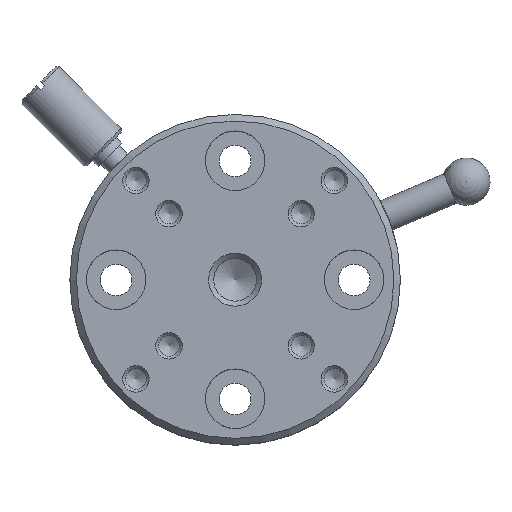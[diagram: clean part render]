
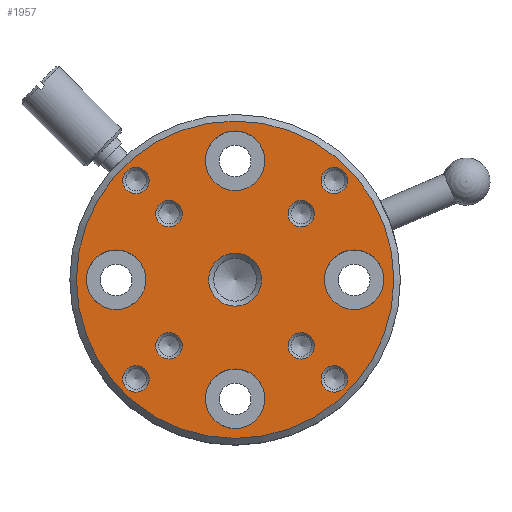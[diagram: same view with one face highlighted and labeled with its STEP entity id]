
A CAD part, top view. The second image highlights one B-rep face of the part: STEP entity #1957.
In plain terms, the highlighted planar face has unit normal (0, 0, 1).
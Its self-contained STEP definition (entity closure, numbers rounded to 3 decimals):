
#853=CARTESIAN_POINT('',(0.0,12.,29.));
#854=VERTEX_POINT('',#853);
#855=CARTESIAN_POINT('',(0.,0.,29.0));
#856=DIRECTION('',(0.,0.,-1.0));
#857=DIRECTION('',(0.,1.0,0.));
#858=AXIS2_PLACEMENT_3D('',#855,#856,#857);
#859=CIRCLE('',#858,12.0);
#860=EDGE_CURVE('',#854,#854,#859,.T.);
#917=CARTESIAN_POINT('',(11.25,0.,29.0));
#918=VERTEX_POINT('',#917);
#919=CARTESIAN_POINT('',(9.,0.,29.0));
#920=DIRECTION('',(0.0,0.0,1.0));
#921=DIRECTION('',(1.0,0.0,0.0));
#922=AXIS2_PLACEMENT_3D('',#919,#920,#921);
#923=CIRCLE('',#922,2.25);
#924=EDGE_CURVE('',#918,#918,#923,.T.);
#962=CARTESIAN_POINT('',(-5.0,6.,29.));
#963=VERTEX_POINT('',#962);
#964=CARTESIAN_POINT('',(-5.,5.,29.));
#965=DIRECTION('',(0.,0.,-1.0));
#966=DIRECTION('',(0.0,1.0,0.));
#967=AXIS2_PLACEMENT_3D('',#964,#965,#966);
#968=CIRCLE('',#967,1.0);
#969=EDGE_CURVE('',#963,#963,#968,.T.);
#1010=CARTESIAN_POINT('',(-5.0,-4.,29.0));
#1011=VERTEX_POINT('',#1010);
#1012=CARTESIAN_POINT('',(-5.,-5.,29.));
#1013=DIRECTION('',(0.,0.,-1.0));
#1014=DIRECTION('',(0.,1.0,0.));
#1015=AXIS2_PLACEMENT_3D('',#1012,#1013,#1014);
#1016=CIRCLE('',#1015,1.0);
#1017=EDGE_CURVE('',#1011,#1011,#1016,.T.);
#1058=CARTESIAN_POINT('',(7.5,8.5,29.));
#1059=VERTEX_POINT('',#1058);
#1060=CARTESIAN_POINT('',(7.5,7.5,29.));
#1061=DIRECTION('',(0.,0.,-1.0));
#1062=DIRECTION('',(0.,1.0,0.));
#1063=AXIS2_PLACEMENT_3D('',#1060,#1061,#1062);
#1064=CIRCLE('',#1063,1.);
#1065=EDGE_CURVE('',#1059,#1059,#1064,.T.);
#1106=CARTESIAN_POINT('',(-7.5,8.5,29.));
#1107=VERTEX_POINT('',#1106);
#1108=CARTESIAN_POINT('',(-7.5,7.5,29.));
#1109=DIRECTION('',(0.,0.,-1.0));
#1110=DIRECTION('',(0.,1.0,0.));
#1111=AXIS2_PLACEMENT_3D('',#1108,#1109,#1110);
#1112=CIRCLE('',#1111,1.);
#1113=EDGE_CURVE('',#1107,#1107,#1112,.T.);
#1154=CARTESIAN_POINT('',(-7.5,-6.5,29.0));
#1155=VERTEX_POINT('',#1154);
#1156=CARTESIAN_POINT('',(-7.5,-7.5,29.));
#1157=DIRECTION('',(0.,0.,-1.0));
#1158=DIRECTION('',(0.,1.0,0.));
#1159=AXIS2_PLACEMENT_3D('',#1156,#1157,#1158);
#1160=CIRCLE('',#1159,1.);
#1161=EDGE_CURVE('',#1155,#1155,#1160,.T.);
#1202=CARTESIAN_POINT('',(5.0,-4.,29.0));
#1203=VERTEX_POINT('',#1202);
#1204=CARTESIAN_POINT('',(5.,-5.,29.));
#1205=DIRECTION('',(0.,0.,-1.0));
#1206=DIRECTION('',(0.,1.0,0.));
#1207=AXIS2_PLACEMENT_3D('',#1204,#1205,#1206);
#1208=CIRCLE('',#1207,1.0);
#1209=EDGE_CURVE('',#1203,#1203,#1208,.T.);
#1250=CARTESIAN_POINT('',(5.0,6.,29.));
#1251=VERTEX_POINT('',#1250);
#1252=CARTESIAN_POINT('',(5.,5.,29.));
#1253=DIRECTION('',(0.,0.,-1.0));
#1254=DIRECTION('',(0.,1.0,0.));
#1255=AXIS2_PLACEMENT_3D('',#1252,#1253,#1254);
#1256=CIRCLE('',#1255,1.);
#1257=EDGE_CURVE('',#1251,#1251,#1256,.T.);
#1298=CARTESIAN_POINT('',(7.5,-6.5,29.0));
#1299=VERTEX_POINT('',#1298);
#1300=CARTESIAN_POINT('',(7.5,-7.5,29.));
#1301=DIRECTION('',(0.,0.,-1.0));
#1302=DIRECTION('',(0.,1.0,0.));
#1303=AXIS2_PLACEMENT_3D('',#1300,#1301,#1302);
#1304=CIRCLE('',#1303,1.);
#1305=EDGE_CURVE('',#1299,#1299,#1304,.T.);
#1346=CARTESIAN_POINT('',(0.0,2.,29.0));
#1347=VERTEX_POINT('',#1346);
#1348=CARTESIAN_POINT('',(0.,0.,29.0));
#1349=DIRECTION('',(0.,0.,-1.0));
#1350=DIRECTION('',(0.,1.0,0.));
#1351=AXIS2_PLACEMENT_3D('',#1348,#1349,#1350);
#1352=CIRCLE('',#1351,2.0);
#1353=EDGE_CURVE('',#1347,#1347,#1352,.T.);
#1498=CARTESIAN_POINT('',(2.25,-9.,29.0));
#1499=VERTEX_POINT('',#1498);
#1500=CARTESIAN_POINT('',(0.,-9.,29.0));
#1501=DIRECTION('',(0.0,0.0,1.0));
#1502=DIRECTION('',(1.0,0.0,0.0));
#1503=AXIS2_PLACEMENT_3D('',#1500,#1501,#1502);
#1504=CIRCLE('',#1503,2.25);
#1505=EDGE_CURVE('',#1499,#1499,#1504,.T.);
#1598=CARTESIAN_POINT('',(2.25,9.,29.));
#1599=VERTEX_POINT('',#1598);
#1600=CARTESIAN_POINT('',(0.,9.,29.));
#1601=DIRECTION('',(0.0,0.0,1.0));
#1602=DIRECTION('',(1.0,0.0,0.0));
#1603=AXIS2_PLACEMENT_3D('',#1600,#1601,#1602);
#1604=CIRCLE('',#1603,2.25);
#1605=EDGE_CURVE('',#1599,#1599,#1604,.T.);
#1662=CARTESIAN_POINT('',(-6.75,0.,29.0));
#1663=VERTEX_POINT('',#1662);
#1664=CARTESIAN_POINT('',(-9.,0.,29.0));
#1665=DIRECTION('',(0.0,0.0,1.0));
#1666=DIRECTION('',(1.0,0.0,0.0));
#1667=AXIS2_PLACEMENT_3D('',#1664,#1665,#1666);
#1668=CIRCLE('',#1667,2.25);
#1669=EDGE_CURVE('',#1663,#1663,#1668,.T.);
#1910=CARTESIAN_POINT('',(-13.2,-13.2,29.));
#1911=DIRECTION('',(0.0,0.0,-1.0));
#1912=DIRECTION('',(-1.0,0.0,0.0));
#1913=AXIS2_PLACEMENT_3D('',#1910,#1911,#1912);
#1914=PLANE('',#1913);
#1915=ORIENTED_EDGE('',*,*,#860,.F.);
#1916=EDGE_LOOP('',(#1915));
#1917=FACE_OUTER_BOUND('',#1916,.T.);
#1918=ORIENTED_EDGE('',*,*,#924,.F.);
#1919=EDGE_LOOP('',(#1918));
#1920=FACE_BOUND('',#1919,.T.);
#1921=ORIENTED_EDGE('',*,*,#1605,.F.);
#1922=EDGE_LOOP('',(#1921));
#1923=FACE_BOUND('',#1922,.T.);
#1924=ORIENTED_EDGE('',*,*,#1669,.F.);
#1925=EDGE_LOOP('',(#1924));
#1926=FACE_BOUND('',#1925,.T.);
#1927=ORIENTED_EDGE('',*,*,#1505,.F.);
#1928=EDGE_LOOP('',(#1927));
#1929=FACE_BOUND('',#1928,.T.);
#1930=ORIENTED_EDGE('',*,*,#969,.T.);
#1931=EDGE_LOOP('',(#1930));
#1932=FACE_BOUND('',#1931,.T.);
#1933=ORIENTED_EDGE('',*,*,#1017,.T.);
#1934=EDGE_LOOP('',(#1933));
#1935=FACE_BOUND('',#1934,.T.);
#1936=ORIENTED_EDGE('',*,*,#1065,.T.);
#1937=EDGE_LOOP('',(#1936));
#1938=FACE_BOUND('',#1937,.T.);
#1939=ORIENTED_EDGE('',*,*,#1113,.T.);
#1940=EDGE_LOOP('',(#1939));
#1941=FACE_BOUND('',#1940,.T.);
#1942=ORIENTED_EDGE('',*,*,#1161,.T.);
#1943=EDGE_LOOP('',(#1942));
#1944=FACE_BOUND('',#1943,.T.);
#1945=ORIENTED_EDGE('',*,*,#1209,.T.);
#1946=EDGE_LOOP('',(#1945));
#1947=FACE_BOUND('',#1946,.T.);
#1948=ORIENTED_EDGE('',*,*,#1257,.T.);
#1949=EDGE_LOOP('',(#1948));
#1950=FACE_BOUND('',#1949,.T.);
#1951=ORIENTED_EDGE('',*,*,#1305,.T.);
#1952=EDGE_LOOP('',(#1951));
#1953=FACE_BOUND('',#1952,.T.);
#1954=ORIENTED_EDGE('',*,*,#1353,.T.);
#1955=EDGE_LOOP('',(#1954));
#1956=FACE_BOUND('',#1955,.T.);
#1957=ADVANCED_FACE('',(#1917,#1920,#1923,#1926,#1929,#1932,#1935,#1938,#1941,#1944,#1947,#1950,#1953,#1956),#1914,.F.);
